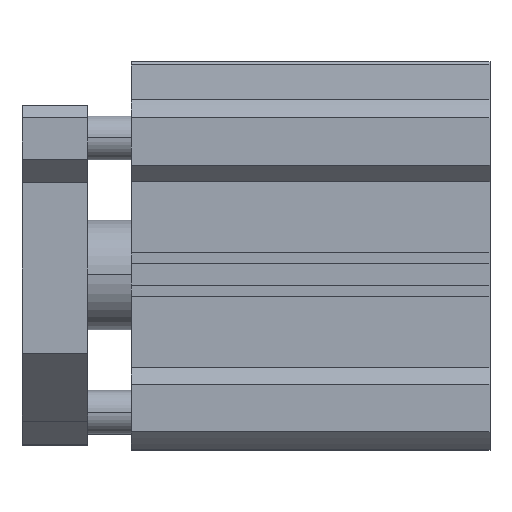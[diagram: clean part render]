
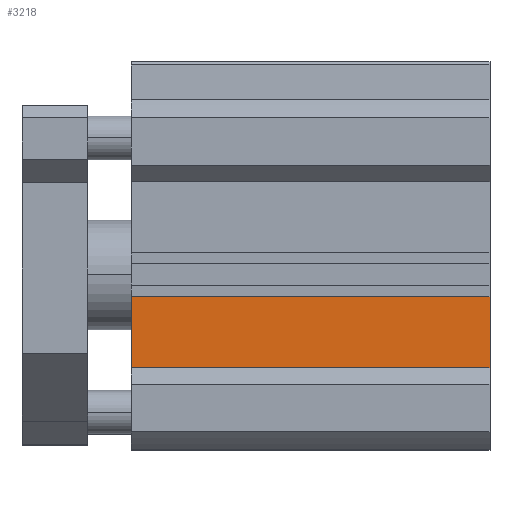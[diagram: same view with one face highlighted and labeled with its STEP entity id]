
A CAD part, top view. The second image highlights one B-rep face of the part: STEP entity #3218.
In plain terms, the highlighted planar face has unit normal (0, 0, 1).
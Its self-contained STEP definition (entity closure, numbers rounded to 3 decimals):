
#181 = CARTESIAN_POINT ( 'NONE',  ( 0., -17., 29. ) ) ;
#232 = CARTESIAN_POINT ( 'NONE',  ( 65.5, -4., 29. ) ) ;
#376 = CARTESIAN_POINT ( 'NONE',  ( 65.5, -17., 29. ) ) ;
#430 = VERTEX_POINT ( 'NONE', #181 ) ;
#452 = EDGE_CURVE ( 'NONE', #1741, #430, #4020, .T. ) ;
#539 = PLANE ( 'NONE',  #2723 ) ;
#605 = ORIENTED_EDGE ( 'NONE', *, *, #3016, .F. ) ;
#680 = EDGE_LOOP ( 'NONE', ( #4156, #884, #605, #993 ) ) ;
#681 = EDGE_CURVE ( 'NONE', #4303, #430, #3476, .T. ) ;
#884 = ORIENTED_EDGE ( 'NONE', *, *, #681, .F. ) ;
#931 = CARTESIAN_POINT ( 'NONE',  ( 65.5, -4., 29. ) ) ;
#993 = ORIENTED_EDGE ( 'NONE', *, *, #3766, .T. ) ;
#1036 = CARTESIAN_POINT ( 'NONE',  ( 65.5, -4., 29. ) ) ;
#1462 = VECTOR ( 'NONE', #3763, 1000. ) ;
#1561 = DIRECTION ( 'NONE',  ( 0., -1., 0. ) ) ;
#1632 = VERTEX_POINT ( 'NONE', #931 ) ;
#1741 = VERTEX_POINT ( 'NONE', #2583 ) ;
#1784 = DIRECTION ( 'NONE',  ( 0., 0., -1. ) ) ;
#1861 = VECTOR ( 'NONE', #1561, 1000. ) ;
#2176 = VECTOR ( 'NONE', #5022, 1000. ) ;
#2583 = CARTESIAN_POINT ( 'NONE',  ( 0., -4., 29. ) ) ;
#2723 = AXIS2_PLACEMENT_3D ( 'NONE', #232, #1784, #3261 ) ;
#2876 = CARTESIAN_POINT ( 'NONE',  ( 0., -4., 29. ) ) ;
#3016 = EDGE_CURVE ( 'NONE', #1632, #4303, #3348, .T. ) ;
#3071 = LINE ( 'NONE', #3448, #3673 ) ;
#3218 = ADVANCED_FACE ( 'NONE', ( #4424 ), #539, .F. ) ;
#3261 = DIRECTION ( 'NONE',  ( 0., -1., 0. ) ) ;
#3348 = LINE ( 'NONE', #1036, #1462 ) ;
#3397 = DIRECTION ( 'NONE',  ( -1., 0., 0. ) ) ;
#3448 = CARTESIAN_POINT ( 'NONE',  ( 65.5, -4., 29. ) ) ;
#3476 = LINE ( 'NONE', #376, #2176 ) ;
#3673 = VECTOR ( 'NONE', #3397, 1000. ) ;
#3763 = DIRECTION ( 'NONE',  ( 0., -1., 0. ) ) ;
#3766 = EDGE_CURVE ( 'NONE', #1632, #1741, #3071, .T. ) ;
#4020 = LINE ( 'NONE', #2876, #1861 ) ;
#4156 = ORIENTED_EDGE ( 'NONE', *, *, #452, .T. ) ;
#4303 = VERTEX_POINT ( 'NONE', #4883 ) ;
#4424 = FACE_OUTER_BOUND ( 'NONE', #680, .T. ) ;
#4883 = CARTESIAN_POINT ( 'NONE',  ( 65.5, -17., 29. ) ) ;
#5022 = DIRECTION ( 'NONE',  ( -1., 0., 0. ) ) ;
